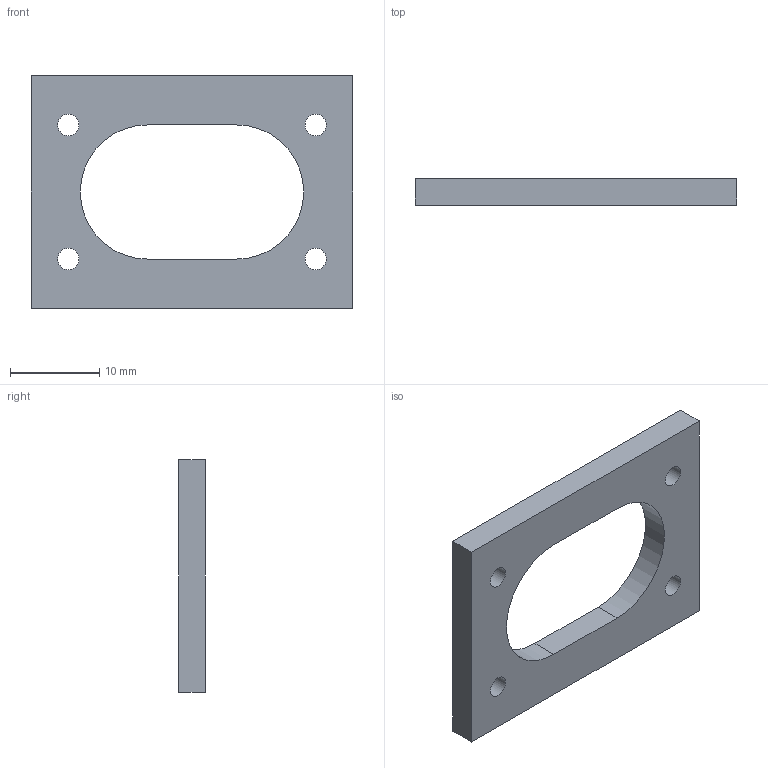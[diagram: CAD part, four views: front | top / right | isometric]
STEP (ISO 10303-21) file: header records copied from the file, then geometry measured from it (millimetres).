
FILE_DESCRIPTION(('Open CASCADE Model'),'2;1');
FILE_NAME('Open CASCADE Shape Model','2026-08-28T21:32:47',('Author'),( 'Open CASCADE'),'Open CASCADE STEP processor 7.8','Open CASCADE 7.8' ,'Unknown');
FILE_SCHEMA(('AUTOMOTIVE_DESIGN { 1 0 10303 214 1 1 1 1 }'));
Length unit declared in the file: millimetre
Products named in the file (1): Open CASCADE STEP translator 7.8 2
Bounding box: 36 x 3 x 26 mm (x, y, z)
Volume: 1773.6 mm3; surface area: 1846.2 mm2
Topology: 1 solids, 1 shells, 14 faces, 36 edges, 24 vertices
Faces by surface type: plane 8, cylinder 6
Full cylindrical faces by diameter (mm): 2.4 x4
Entity records: 920 total; most frequent: CARTESIAN_POINT 157, DIRECTION 140, LINE 74, VECTOR 74, ORIENTED_EDGE 72, PCURVE 72, DEFINITIONAL_REPRESENTATION 72, EDGE_CURVE 36
